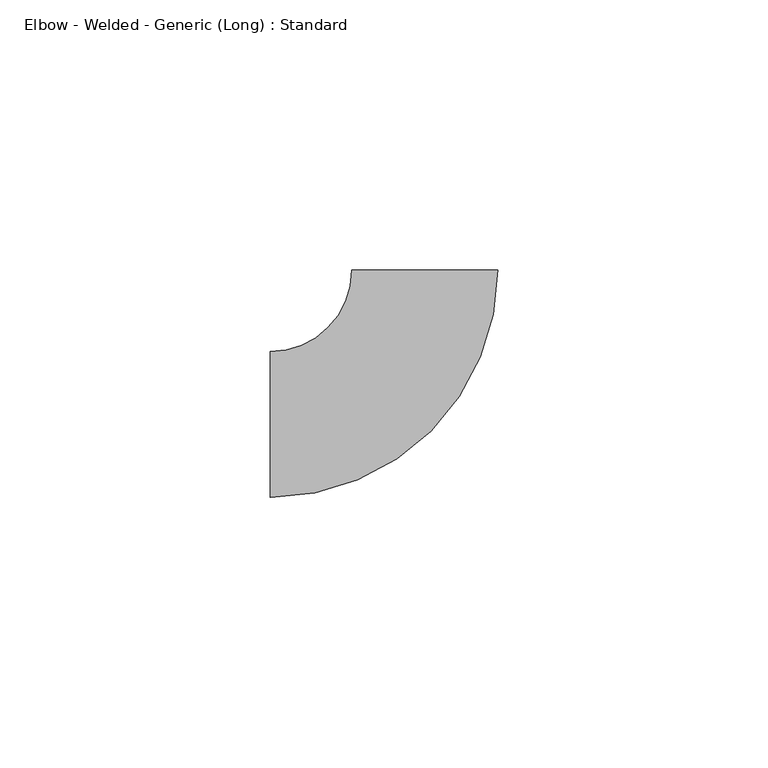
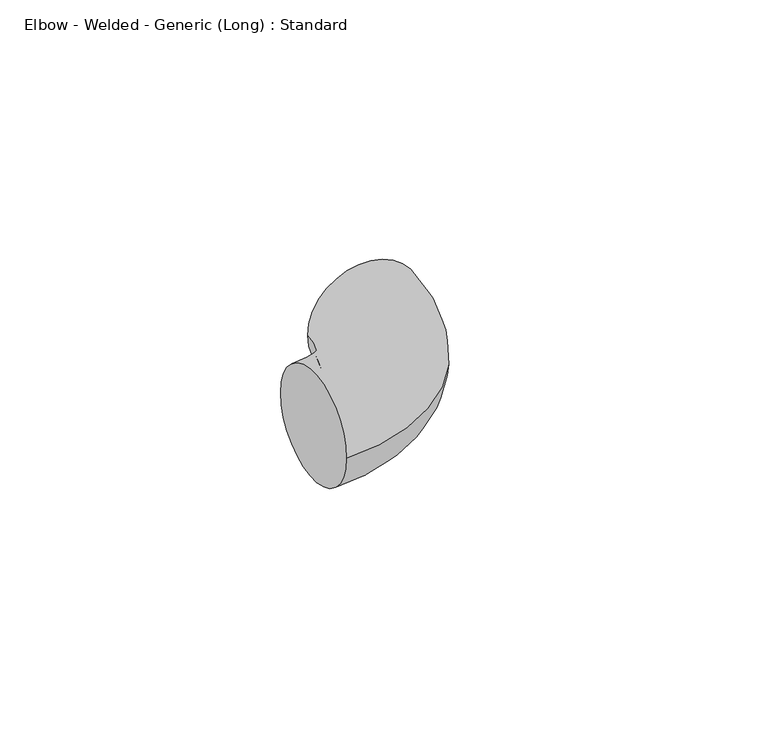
"""IFC4 building model written with IfcOpenShell, lengths in millimetres: pipe fitting geometry, Elbow - Welded - Generic (Long) : Standard."""

import ifcopenshell
import ifcopenshell.guid

model = None  # the IFC model being written
_history = None  # IfcOwnerHistory: only IFC2X3 demands one
_inside = {}  # id of a spatial element -> (the spatial element, [elements in it])
_under = {}  # id of a project, library or spatial element -> (it, [spatial elements below it])
_declared = {}  # id of a project -> (the project, [libraries it declares])
_typed = {}  # id of a type object -> (the type object, [elements of that type])
_made_of = {}  # id of a material, layer set ... -> (it, [elements and type objects made of it])


def new_model(schema):
    """Start an empty IFC model of exactly this schema.

    Asked for "IFC4X3", IfcOpenShell would pick the latest addendum, in which some entities
    have other attributes; the version numbers below select the first issue.
    IFC2X3 requires an IfcOwnerHistory on every rooted entity: one is made here for all.
    """
    global model, _history
    if schema == "IFC4X3":
        model = ifcopenshell.file(schema_version=(4, 3, 0, 0))
    else:
        model = ifcopenshell.file(schema=schema)
    _inside.clear()
    _under.clear()
    _declared.clear()
    _typed.clear()
    _made_of.clear()
    _history = None
    if model.schema == "IFC2X3":
        org = make("IfcOrganization", Name="unknown")
        user = make(
            "IfcPersonAndOrganization",
            ThePerson=make("IfcPerson", FamilyName="unknown"),
            TheOrganization=org,
        )
        app = make(
            "IfcApplication",
            ApplicationDeveloper=org,
            Version="unknown",
            ApplicationFullName="unknown",
            ApplicationIdentifier="unknown",
        )
        _history = make(
            "IfcOwnerHistory",
            OwningUser=user,
            OwningApplication=app,
            ChangeAction="ADDED",
            CreationDate=0,
        )
    return model


def make(cls, **values):
    """One entity of the class cls with the attributes given. An attribute that is None is left unset."""
    return model.create_entity(
        cls, **{name: value for name, value in values.items() if value is not None}
    )


def rooted(cls, **values):
    """An entity with a GlobalId (a new one), such as an element, a storey or a relation."""
    return make(cls, GlobalId=ifcopenshell.guid.new(), OwnerHistory=_history, **values)


def si_unit(unit_type, name, prefix=None):
    """IfcSIUnit, for example si_unit("LENGTHUNIT", "METRE", prefix="MILLI")."""
    return make("IfcSIUnit", UnitType=unit_type, Prefix=prefix, Name=name)


def assignment(units):
    """IfcUnitAssignment: the units of a project."""
    return None if units is None else make("IfcUnitAssignment", Units=units)


def point(xyz):
    """IfcCartesianPoint."""
    return None if xyz is None else make("IfcCartesianPoint", Coordinates=xyz)


def direction(xyz):
    """IfcDirection."""
    return None if xyz is None else make("IfcDirection", DirectionRatios=xyz)


def frame(location, z_axis=None, x_axis=None):
    """IfcAxis2Placement3D, a coordinate frame: its origin and axes. An axis left out is left unset."""
    return make(
        "IfcAxis2Placement3D",
        Location=point(location),
        Axis=direction(z_axis),
        RefDirection=direction(x_axis),
    )


def origin():
    """The frame at (0, 0, 0) with its axes left unset."""
    return frame((0.0, 0.0, 0.0))


def place(relative_to, where):
    """IfcLocalPlacement: puts the frame where relative to a parent placement (None: the world)."""
    return make(
        "IfcLocalPlacement", PlacementRelTo=relative_to, RelativePlacement=where
    )


def context(
    kind, dimensions, precision=None, world=None, true_north=None, identifier=None
):
    """IfcGeometricRepresentationContext, for example the 3D "Model" context."""
    return make(
        "IfcGeometricRepresentationContext",
        ContextIdentifier=identifier,
        ContextType=kind,
        CoordinateSpaceDimension=dimensions,
        Precision=precision,
        WorldCoordinateSystem=world,
        TrueNorth=true_north,
    )


def project(units=None, contexts=None):
    """IfcProject with its units and contexts."""
    return rooted(
        "IfcProject",
        Name="project",
        RepresentationContexts=contexts,
        UnitsInContext=assignment(units),
    )


def spatial(cls, under=None, at=None, **own):
    """A site, building, storey or space (cls), placed at a placement, below another one or the project."""
    s = rooted(cls, ObjectPlacement=at, **own)
    if under is not None:
        _under.setdefault(under.id(), (under, []))[1].append(s)
    return s


def circle_curve(where, radius):
    """IfcCircle in the frame where."""
    return make("IfcCircle", Position=where, Radius=radius)


def ellipse_curve(where, semi_axis1, semi_axis2):
    """IfcEllipse in the frame where."""
    return make(
        "IfcEllipse", Position=where, SemiAxis1=semi_axis1, SemiAxis2=semi_axis2
    )


def trimmed(basis, trim1, trim2, sense, master):
    """IfcTrimmedCurve: the piece of a basis curve between two trims."""
    return make(
        "IfcTrimmedCurve",
        BasisCurve=basis,
        Trim1=trim1,
        Trim2=trim2,
        SenseAgreement=sense,
        MasterRepresentation=master,
    )


def shape(context_of_items, identifier, shape_type, items):
    """IfcShapeRepresentation: the items that make up one representation, for example the "Body"."""
    return make(
        "IfcShapeRepresentation",
        ContextOfItems=context_of_items,
        RepresentationIdentifier=identifier,
        RepresentationType=shape_type,
        Items=items,
    )


def source(mapping_origin, context_of_items, identifier, shape_type, items):
    """IfcRepresentationMap: a shape defined once, which mapped items show again and again."""
    return make(
        "IfcRepresentationMap",
        MappingOrigin=mapping_origin,
        MappedRepresentation=shape(context_of_items, identifier, shape_type, items),
    )


def transform(
    local_origin,
    x_axis=None,
    y_axis=None,
    z_axis=None,
    scale=None,
    scale2=None,
    scale3=None,
    uniform=True,
):
    """IfcCartesianTransformationOperator3D, or its non-uniform kind. x_axis, y_axis, z_axis: its Axis1, 2, 3."""
    if uniform:
        return make(
            "IfcCartesianTransformationOperator3D",
            Axis1=direction(x_axis),
            Axis2=direction(y_axis),
            LocalOrigin=point(local_origin),
            Scale=scale,
            Axis3=direction(z_axis),
        )
    return make(
        "IfcCartesianTransformationOperator3DnonUniform",
        Axis1=direction(x_axis),
        Axis2=direction(y_axis),
        LocalOrigin=point(local_origin),
        Scale=scale,
        Axis3=direction(z_axis),
        Scale2=scale2,
        Scale3=scale3,
    )


def mapped(mapping_source, mapping_target):
    """IfcMappedItem: shows the shape of a source again, moved by a transform."""
    return make(
        "IfcMappedItem", MappingSource=mapping_source, MappingTarget=mapping_target
    )


def made_of(thing, what):
    """Note that an element or type object is made of a material, layer set ...; save() writes the relation."""
    if what is not None:
        _made_of.setdefault(what.id(), (what, []))[1].append(thing)
    return thing


def element(
    cls,
    number,
    at=None,
    inside=None,
    cuts=None,
    type_object=None,
    material=None,
    context=None,
    identifier="Body",
    shape_type=None,
    held_by="IfcProductDefinitionShape",
    body=None,
    shapes=None,
    **own,
):
    """One element of the class cls, such as IfcWall. Its Tag is "e" and its number.

    at: its placement. inside: the storey or other place that contains it. cuts: it is an
    opening in that element (IfcRelVoidsElement). A single representation is given by context,
    identifier, shape_type and body (its items); several are given by shapes. held_by: the class
    of the entity that holds the representations. save() writes the other relations.
    """
    e = rooted(cls, Tag="e%d" % number, ObjectPlacement=at, **own)
    if body is not None:
        shapes = [shape(context, identifier, shape_type, body)]
    if shapes is not None:
        e.Representation = make(held_by, Representations=shapes)
    if inside is not None:
        _inside.setdefault(inside.id(), (inside, []))[1].append(e)
    if cuts is not None:
        rooted(
            "IfcRelVoidsElement", RelatingBuildingElement=cuts, RelatedOpeningElement=e
        )
    if type_object is not None:
        _typed.setdefault(type_object.id(), (type_object, []))[1].append(e)
    return made_of(e, material)


def aggregate(whole, parts):
    """IfcRelAggregates: a whole, such as a stair, and the parts it consists of."""
    return rooted("IfcRelAggregates", RelatingObject=whole, RelatedObjects=parts)


def save(model, path):
    """Write the relations noted so far, then the file.

    IfcRelAggregates (storeys below a building ...), IfcRelContainedInSpatialStructure (elements
    in a storey), IfcRelDefinesByType, IfcRelAssociatesMaterial and IfcRelDeclares: one each for
    every whole, place, type object, material and project.
    """
    for whole, parts in _under.values():
        aggregate(whole, parts)
    for where, things in _inside.values():
        rooted(
            "IfcRelContainedInSpatialStructure",
            RelatedElements=things,
            RelatingStructure=where,
        )
    for kind, things in _typed.values():
        rooted("IfcRelDefinesByType", RelatedObjects=things, RelatingType=kind)
    for what, things in _made_of.values():
        rooted("IfcRelAssociatesMaterial", RelatedObjects=things, RelatingMaterial=what)
    for by, libraries in _declared.values():
        rooted("IfcRelDeclares", RelatingContext=by, RelatedDefinitions=libraries)
    model.write(path)


def plane_surface(at):
    """IfcPlane: the flat surface through the origin of the frame at, square to its z axis."""
    return make("IfcPlane", Position=at)


def revolved_surface(curve, axis_point, axis_direction):
    """IfcSurfaceOfRevolution: the curve turned about the line through axis_point along axis_direction."""
    return make(
        "IfcSurfaceOfRevolution",
        SweptCurve=make("IfcArbitraryOpenProfileDef", ProfileType="CURVE", Curve=curve),
        AxisPosition=make("IfcAxis1Placement", Location=point(axis_point), Axis=direction(axis_direction)),
    )


def advanced_brep(points, edges, surfaces, faces):
    """IfcAdvancedBrep: a solid bounded by faces that lie on surfaces and meet in shared edges.

    An edge is (start, end): straight between two places in points (the first is 0);
    or (start, end, curve); or (start, end, curve, False) where it runs against its curve.
    A face is (place in surfaces, loops), or (place, loops, False) where it looks against
    its surface's normal. A loop lists edges by number (the first is 1), with a minus sign
    where the edge is run from its end to its start. The first loop is the outer one.
    """
    corners = [point(p) for p in points]
    vertices = [make("IfcVertexPoint", VertexGeometry=c) for c in corners]
    made = []
    for start, end, *more in edges:
        made.append(
            make(
                "IfcEdgeCurve",
                EdgeStart=vertices[start],
                EdgeEnd=vertices[end],
                EdgeGeometry=more[0] if more else make("IfcPolyline", Points=[corners[start], corners[end]]),
                SameSense=more[1] if len(more) > 1 else True,
            )
        )
    hull = []
    for where, loops, *sense in faces:
        bounds = []
        for j, loop in enumerate(loops):
            ring = [make("IfcOrientedEdge", EdgeElement=made[abs(k) - 1], Orientation=k > 0) for k in loop]
            bounds.append(
                make(
                    "IfcFaceOuterBound" if j == 0 else "IfcFaceBound",
                    Bound=make("IfcEdgeLoop", EdgeList=ring),
                    Orientation=True,
                )
            )
        hull.append(make("IfcAdvancedFace", Bounds=bounds, FaceSurface=surfaces[where], SameSense=sense[0] if sense else True))
    return make("IfcAdvancedBrep", Outer=make("IfcClosedShell", CfsFaces=hull))


def elbow_welded_generic_long_standard_4b090d4d(model_context):
    return source(origin(), model_context, "Body", "AdvancedBrep", [
        advanced_brep(
        [(-28.575, -13.49375, 0.0), (-28.575, 13.49375, 0.0), (13.4928712, 28.575415, 0.0), (-13.4946288, 28.574585, 0.0)],
        [
            (0, 1, circle_curve(frame((-28.575, 0.0, 0.0), z_axis=(-1.0, 0.0, 0.0), x_axis=(0.0, 1.0, 0.0)), 13.49375)),
            (1, 0, circle_curve(frame((-28.575, 0.0, 0.0), z_axis=(-1.0, 0.0, 0.0), x_axis=(0.0, 1.0, 0.0)), 13.49375)),
            (2, 3, circle_curve(frame((-0.0008788, 28.575, 0.0), z_axis=(-3.075494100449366e-05, 0.9999999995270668, 0.0), x_axis=(-0.9999999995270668, -3.075494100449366e-05, 0.0)), 13.49375)),
            (3, 2, circle_curve(frame((-0.0008788, 28.575, 0.0), z_axis=(-3.075494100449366e-05, 0.9999999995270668, 0.0), x_axis=(-0.9999999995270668, -3.075494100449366e-05, 0.0)), 13.49375)),
            (3, 1, circle_curve(frame((-28.575, 28.5741212, 0.0), z_axis=(0.0, 0.0, -1.0), x_axis=(0.0, -1.0, 0.0)), 15.0803712)),
            (0, 2, circle_curve(frame((-28.575, 28.5741212, 0.0), z_axis=(0.0, 0.0, 1.0), x_axis=(0.0, -1.0, 0.0)), 42.0678712)),
        ],
        [
            plane_surface(frame((-28.575, 0.0, 0.0), z_axis=(-1.0, 0.0, 0.0), x_axis=(0.0, 0.0, 1.0))),
            plane_surface(frame((-0.0008788, 28.575, 0.0), z_axis=(-3.075494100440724e-05, 0.9999999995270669, 0.0), x_axis=(0.0, 0.0, 1.0))),
            revolved_surface(trimmed(ellipse_curve(frame((-28.575, 0.0, 0.0), z_axis=(-1.0, 0.0, 0.0), x_axis=(0.0, 1.0, 0.0)), 13.49375, 13.49375), [point((-28.575, -13.49375, 0.0))], [point((-28.575, 13.49375, 0.0))], True, "CARTESIAN"), (-28.575, 28.5741212, 0.0), (0.0, 0.0, 1.0)),
            revolved_surface(trimmed(ellipse_curve(frame((-28.575, 0.0, 0.0), z_axis=(-1.0, 0.0, 0.0), x_axis=(0.0, 1.0, 0.0)), 13.49375, 13.49375), [point((-28.575, 13.49375, 0.0))], [point((-28.575, -13.49375, 0.0))], True, "CARTESIAN"), (-28.575, 28.5741212, 0.0), (0.0, 0.0, 1.0)),
        ],
        [
            (0, [[1, 2]]),
            (1, [[3, 4]]),
            (2, [[5, -1, 6, -4]]),
            (3, [[-6, -2, -5, -3]]),
        ],
    ),
    ])


if __name__ == "__main__":
    model = new_model("IFC4")
    model_context = context("Model", 3, world=origin())
    ifc_project = project(units=[si_unit("LENGTHUNIT", "METRE", prefix="MILLI")], contexts=[model_context])
    site = spatial("IfcSite", under=ifc_project)
    building = spatial("IfcBuilding", under=site)
    placement = place(None, origin())
    elbow_welded_generic_long_standard_shape = elbow_welded_generic_long_standard_4b090d4d(model_context)
    element("IfcPipeFitting", 1, ObjectType="Elbow - Welded - Generic (Long) : Standard", at=placement, inside=building, context=model_context, shape_type="MappedRepresentation", body=[
        mapped(elbow_welded_generic_long_standard_shape, transform((0.0, 0.0, 0.0), x_axis=(1.0, 0.0, 0.0), y_axis=(0.0, 1.0, 0.0), z_axis=(0.0, 0.0, 1.0))),
    ])
    save(model, "model.ifc")
